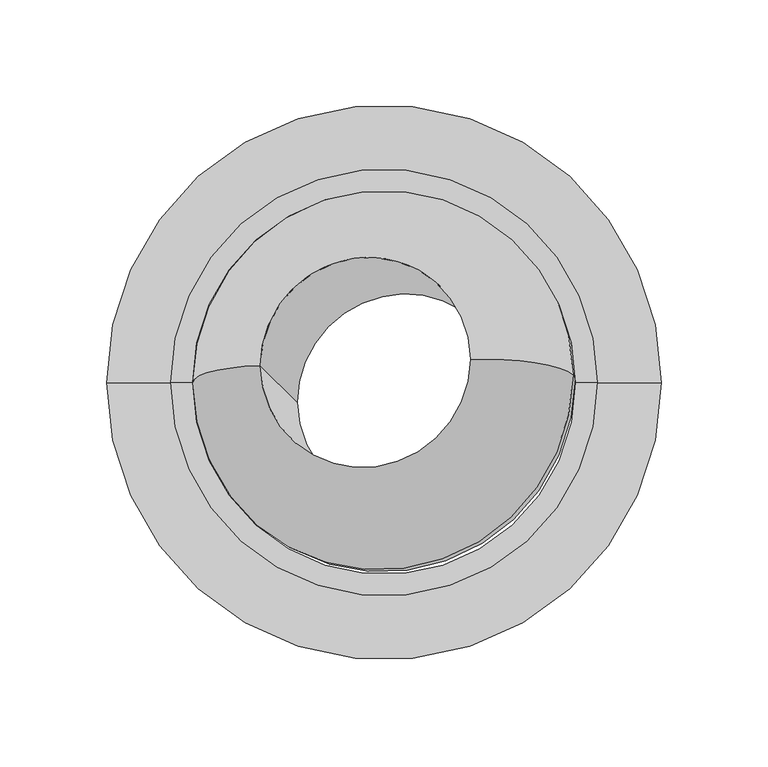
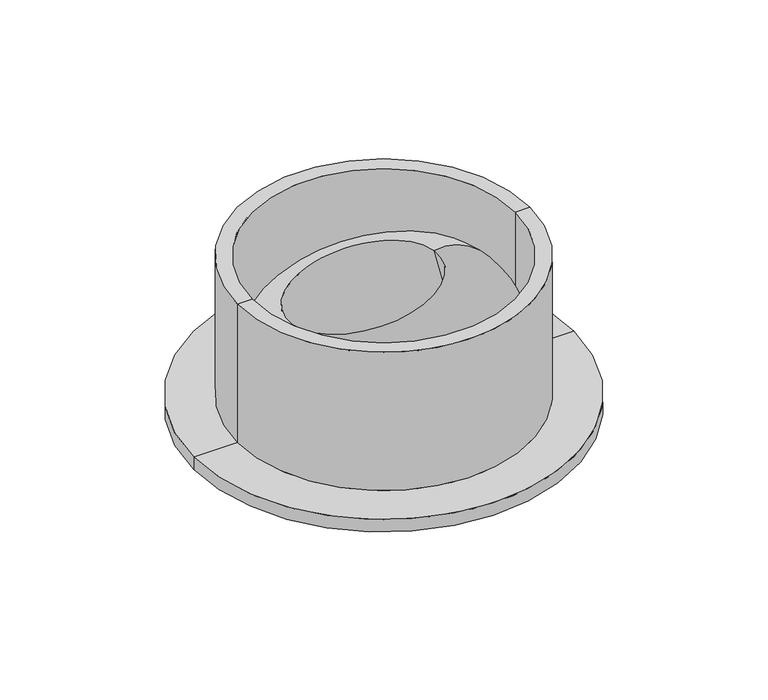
"""IFC4 building model written with IfcOpenShell, lengths in millimetres: air terminal geometry, BL_ДифузорСопловый_Приточный_LKV : BL_ДифузорСопловый_Приточный_LKV."""

from ifc_helpers import new_model, si_unit, point, frame, origin, origin_with_axes, place, context, project, spatial, polyline, circle_curve, ellipse_curve, trimmed, source, transform, mapped, element, save
from ifc_brep_helpers import plane_surface, cylinder_surface, revolved_surface, advanced_brep


def air_terminal_655b97c2(model_context):
    return source(origin(), model_context, "Body", "AdvancedBrep", [
        advanced_brep(
        [(-40.5579788, -9.2008527, -31.1806287), (57.9227965, -6.1854838, -14.0796216), (40.5579788, 10.9155234, 82.9050095), (-57.9227965, 7.9001544, 65.8040023), (88.6326978, 3.5711674, 41.2530968), (-88.6326978, -1.8564967, 10.4712839)],
        [
            (0, 1, circle_curve(frame((8.6824089, -7.6931682, -22.6301252), z_axis=(0.17364817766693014, -0.1710100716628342, -0.9698463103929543), x_axis=(0.9848077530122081, 0.030153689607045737, 0.17101007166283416)), 50.0)),
            (1, 2),
            (2, 3, circle_curve(frame((-8.6824089, 9.4078389, 74.3545059), z_axis=(-0.17364817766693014, 0.1710100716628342, 0.9698463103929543), x_axis=(0.9848077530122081, 0.030153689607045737, 0.17101007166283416)), 50.0)),
            (3, 0),
            (1, 0, circle_curve(frame((8.6824089, -7.6931682, -22.6301252), z_axis=(0.17364817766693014, -0.1710100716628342, -0.9698463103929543), x_axis=(0.9848077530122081, 0.030153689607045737, 0.17101007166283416)), 50.0)),
            (3, 2, circle_curve(frame((-8.6824089, 9.4078389, 74.3545059), z_axis=(-0.17364817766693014, 0.1710100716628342, 0.9698463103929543), x_axis=(0.9848077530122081, 0.030153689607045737, 0.17101007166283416)), 50.0)),
            (2, 4, ellipse_curve(frame((49.2403877, 2.3650198, 34.4126939), z_axis=(0.0, 0.9848077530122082, -0.17364817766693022), x_axis=(-0.17364817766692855, 0.17101007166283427, 0.9698463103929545)), 50.0, 40.0)),
            (4, 5, circle_curve(frame((0.0, 0.8573353, 25.8621904), z_axis=(-0.17364817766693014, 0.1710100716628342, 0.9698463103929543), x_axis=(0.9848077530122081, 0.030153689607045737, 0.17101007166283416)), 90.0)),
            (5, 3, ellipse_curve(frame((-49.2403877, -0.6503491, 17.3116868), z_axis=(0.0, 0.9848077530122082, -0.17364817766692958), x_axis=(-0.17364817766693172, 0.1710100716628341, 0.9698463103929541)), 50.0, 40.0)),
            (5, 4, circle_curve(frame((0.0, 0.8573353, 25.8621904), z_axis=(-0.17364817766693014, 0.1710100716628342, 0.9698463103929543), x_axis=(0.9848077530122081, 0.030153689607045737, 0.17101007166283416)), 90.0)),
            (4, 1, ellipse_curve(frame((49.2403877, 2.3650198, 34.4126939), z_axis=(0.0, 0.9848077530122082, -0.1736481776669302), x_axis=(0.17364817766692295, -0.1710100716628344, -0.9698463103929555)), 50.0, 40.0)),
            (0, 5, ellipse_curve(frame((-49.2403877, -0.6503491, 17.3116868), z_axis=(0.0, 0.9848077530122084, -0.1736481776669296), x_axis=(0.17364817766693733, -0.17101007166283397, -0.9698463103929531)), 50.0, 40.0)),
        ],
        [
            revolved_surface(polyline([(40.557978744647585, 10.915523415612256, 82.90500948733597), (57.92279652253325, -6.185483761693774, -14.079621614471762)]), (-386.6823673, 381.6651286, 2185.530505), (-0.17364817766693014, 0.1710100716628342, 0.9698463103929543)),
            revolved_surface(trimmed(ellipse_curve(frame((49.2403877, 2.3650198, 34.4126939), z_axis=(0.0, -0.9848077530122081, 0.1736481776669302), x_axis=(-0.17364817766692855, 0.17101007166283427, 0.9698463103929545)), 50.0, 40.0), [point((88.6326978, 3.5711674, 41.2530968))], [point((40.5579788, 10.9155234, 82.9050095))], True, "CARTESIAN"), (-386.6823673, 381.6651286, 2185.530505), (-0.17364817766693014, 0.1710100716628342, 0.9698463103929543)),
            revolved_surface(trimmed(ellipse_curve(frame((49.2403877, 2.3650198, 34.4126939), z_axis=(0.0, -0.9848077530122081, 0.17364817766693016), x_axis=(0.17364817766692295, -0.1710100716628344, -0.9698463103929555)), 50.0, 40.0), [point((57.9227965, -6.1854838, -14.0796216))], [point((88.6326978, 3.5711674, 41.2530968))], True, "CARTESIAN"), (-386.6823673, 381.6651286, 2185.530505), (-0.17364817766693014, 0.1710100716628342, 0.9698463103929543)),
        ],
        [
            (0, [[1, 2, 3, 4]]),
            (0, [[5, -4, 6, -2]]),
            (1, [[-3, 7, 8, 9]]),
            (1, [[-6, -9, 10, -7]]),
            (2, [[-8, 11, -1, 12]]),
            (2, [[-10, -12, -5, -11]]),
        ],
    ),
        advanced_brep(
        [(-100.0, 0.0, 100.0), (100.0, 0.0, 100.0), (100.0, 0.0, 0.0), (-100.0, 0.0, 0.0), (-90.0, 0.0, 100.0), (90.0, 0.0, 100.0), (-90.0, 0.0, -18.0), (90.0, 0.0, -18.0), (-115.0, 0.0, -18.0), (115.0, 0.0, -18.0), (-130.0, 0.0, -9.0), (130.0, 0.0, -9.0), (-130.0, 0.0, 0.0), (130.0, 0.0, 0.0)],
        [
            (0, 1, circle_curve(frame((0.0, 0.0, 100.0), z_axis=(0.0, 0.0, -1.0), x_axis=(1.0, 0.0, 0.0)), 100.0)),
            (1, 2),
            (2, 3, circle_curve(origin_with_axes(), 100.0)),
            (3, 0),
            (1, 0, circle_curve(frame((0.0, 0.0, 100.0), z_axis=(0.0, 0.0, -1.0), x_axis=(1.0, 0.0, 0.0)), 100.0)),
            (3, 2, circle_curve(origin_with_axes(), 100.0)),
            (4, 5, circle_curve(frame((0.0, 0.0, 100.0), z_axis=(0.0, 0.0, -1.0), x_axis=(1.0, 0.0, 0.0)), 90.0)),
            (5, 1),
            (0, 4),
            (5, 4, circle_curve(frame((0.0, 0.0, 100.0), z_axis=(0.0, 0.0, -1.0), x_axis=(1.0, 0.0, 0.0)), 90.0)),
            (6, 7, circle_curve(frame((0.0, 0.0, -18.0), z_axis=(0.0, 0.0, -1.0), x_axis=(1.0, 0.0, 0.0)), 90.0)),
            (7, 5),
            (4, 6),
            (7, 6, circle_curve(frame((0.0, 0.0, -18.0), z_axis=(0.0, 0.0, -1.0), x_axis=(1.0, 0.0, 0.0)), 90.0)),
            (8, 9, circle_curve(frame((0.0, 0.0, -18.0), z_axis=(0.0, 0.0, -1.0), x_axis=(1.0, 0.0, 0.0)), 115.0)),
            (9, 7),
            (6, 8),
            (9, 8, circle_curve(frame((0.0, 0.0, -18.0), z_axis=(0.0, 0.0, -1.0), x_axis=(1.0, 0.0, 0.0)), 115.0)),
            (10, 11, circle_curve(frame((0.0, 0.0, -9.0), z_axis=(0.0, 0.0, -1.0), x_axis=(1.0, 0.0, 0.0)), 130.0)),
            (11, 9),
            (8, 10),
            (11, 10, circle_curve(frame((0.0, 0.0, -9.0), z_axis=(0.0, 0.0, -1.0), x_axis=(1.0, 0.0, 0.0)), 130.0)),
            (12, 13, circle_curve(frame((0.0, 0.0, 0.0), z_axis=(0.0, 0.0, -1.0), x_axis=(1.0, 0.0, 0.0)), 130.0)),
            (13, 11),
            (10, 12),
            (13, 12, circle_curve(frame((0.0, 0.0, 0.0), z_axis=(0.0, 0.0, -1.0), x_axis=(1.0, 0.0, 0.0)), 130.0)),
            (2, 13),
            (12, 3),
        ],
        [
            cylinder_surface(frame((0.0, 0.0, 2264.3150031), z_axis=(0.0, 0.0, 1.0), x_axis=(1.0, 0.0, 0.0)), 100.0),
            plane_surface(frame((0.0, 0.0, 100.0), z_axis=(0.0, 0.0, 1.0), x_axis=(1.0, 0.0, 0.0))),
            revolved_surface(polyline([(90.0, 0.0, 100.0), (90.0, 0.0, -18.0)]), (0.0, 0.0, 2264.3150031), (0.0, 0.0, 1.0)),
            plane_surface(frame((0.0, 0.0, -18.0), z_axis=(0.0, 0.0, -1.0), x_axis=(1.0, 0.0, 0.0))),
            revolved_surface(polyline([(115.0, 0.0, -18.0), (130.0, 0.0, -9.0)]), (0.0, 0.0, 2264.3150031), (0.0, 0.0, 1.0)),
            cylinder_surface(frame((0.0, 0.0, 2264.3150031), z_axis=(0.0, 0.0, 1.0), x_axis=(1.0, 0.0, 0.0)), 130.0),
            plane_surface(origin_with_axes()),
        ],
        [
            (0, [[1, 2, 3, 4]]),
            (0, [[5, -4, 6, -2]]),
            (1, [[7, 8, -1, 9]]),
            (1, [[10, -9, -5, -8]]),
            (2, [[11, 12, -7, 13]]),
            (2, [[14, -13, -10, -12]]),
            (3, [[15, 16, -11, 17]]),
            (3, [[18, -17, -14, -16]]),
            (4, [[19, 20, -15, 21]]),
            (4, [[22, -21, -18, -20]]),
            (5, [[23, 24, -19, 25]]),
            (5, [[26, -25, -22, -24]]),
            (6, [[-3, 27, -23, 28]]),
            (6, [[-6, -28, -26, -27]]),
        ],
    ),
    ])


if __name__ == "__main__":
    model = new_model("IFC4")
    model_context = context("Model", 3, world=origin())
    ifc_project = project(units=[si_unit("LENGTHUNIT", "METRE", prefix="MILLI")], contexts=[model_context])
    site = spatial("IfcSite", under=ifc_project)
    building = spatial("IfcBuilding", under=site)
    placement = place(None, origin())
    air_terminal_shape = air_terminal_655b97c2(model_context)
    element("IfcAirTerminal", 1, ObjectType="BL_ДифузорСопловый_Приточный_LKV : BL_ДифузорСопловый_Приточный_LKV", at=placement, inside=building, context=model_context, shape_type="MappedRepresentation", body=[
        mapped(air_terminal_shape, transform((0.0, 0.0, 0.0), x_axis=(1.0, 0.0, 0.0), y_axis=(0.0, 1.0, 0.0), z_axis=(0.0, 0.0, 1.0))),
    ])
    save(model, "model.ifc")
